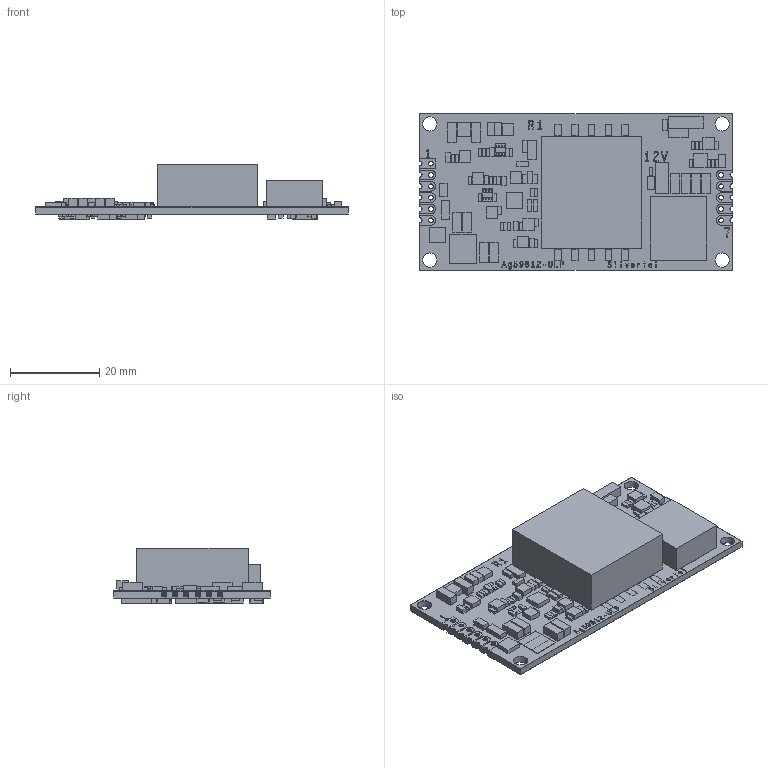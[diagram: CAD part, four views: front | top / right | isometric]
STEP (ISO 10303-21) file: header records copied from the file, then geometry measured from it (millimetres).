
FILE_DESCRIPTION(('FreeCAD Model'),'2;1');
FILE_NAME('Open CASCADE Shape Model','2026-06-02T12:50:27',(''),(''), 'Open CASCADE STEP processor 7.8','FreeCAD','Unknown');
FILE_SCHEMA(('AUTOMOTIVE_DESIGN { 1 0 10303 214 1 1 1 1 }'));
Products named in the file (1): Ag59800_ULP_Simplified
Bounding box: 70 x 35.03 x 12.48 mm (x, y, z)
Volume: 1979.8 mm3; surface area: 16226.4 mm2
Topology: 170 solids, 172 shells, 4362 faces, 12096 edges, 8000 vertices
Faces by surface type: extrusion 3993, revolution 369
Entity records: 147495 total; most frequent: CARTESIAN_POINT 24928, ORIENTED_EDGE 24132, DIRECTION 21520, VECTOR 19673, LINE 15680, EDGE_CURVE 12076, VERTEX_POINT 8000, FACE_BOUND 5274
